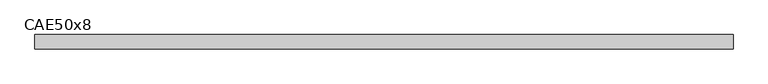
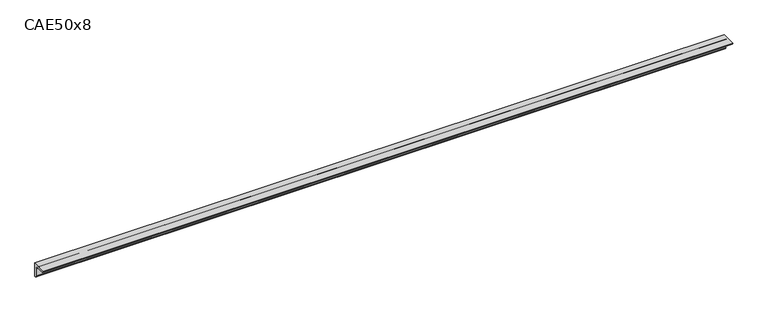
"""IFC4 building model written with IfcOpenShell, lengths in millimetres: beam geometry, L-Cornières : CAE50x8."""

from ifc_helpers import new_model, si_unit, point, frame, frame_2d, origin, place, context, project, spatial, polyline, circle_curve, trimmed, segment, composite_curve, outline, extrude, source, transform, mapped, element, save


def cae50x8_d97462a1(model_context):
    return source(origin(), model_context, "Body", "SweptSolid", [
        extrude(outline(composite_curve([segment(polyline([(15.2, 15.2), (15.2, -34.8)]), True, "CONTINUOUS"), segment(trimmed(circle_curve(frame_2d((15.2, -26.8)), 8.0), [point((15.2, -34.8))], [point((7.2, -26.8))], False, "CARTESIAN"), True, "CONTINUOUS"), segment(polyline([(7.2, -26.8), (7.2, -0.8)]), True, "CONTINUOUS"), segment(trimmed(circle_curve(frame_2d((-0.8, -0.8)), 8.0), [point((7.2, -0.8))], [point((-0.8, 7.2))], True, "CARTESIAN"), True, "CONTINUOUS"), segment(polyline([(-0.8, 7.2), (-26.8, 7.2)]), True, "CONTINUOUS"), segment(trimmed(circle_curve(frame_2d((-26.8, 15.2)), 8.0), [point((-26.8, 7.2))], [point((-34.8, 15.2))], False, "CARTESIAN"), True, "CONTINUOUS"), segment(polyline([(-34.8, 15.2), (15.2, 15.2)]), True, "CONTINUOUS")], self_intersect=False)), frame((-1162.0, 0.0, 0.0), z_axis=(1.0, 0.0, 0.0), x_axis=(0.0, 1.0, 0.0)), (0.0, 0.0, 1.0), 2395.0),
    ])


if __name__ == "__main__":
    model = new_model("IFC4")
    model_context = context("Model", 3, world=origin())
    ifc_project = project(units=[si_unit("LENGTHUNIT", "METRE", prefix="MILLI")], contexts=[model_context])
    site = spatial("IfcSite", under=ifc_project)
    building = spatial("IfcBuilding", under=site)
    placement = place(None, origin())
    cae50x8_shape = cae50x8_d97462a1(model_context)
    element("IfcBeam", 1, ObjectType="L-Cornières : CAE50x8", at=placement, inside=building, context=model_context, shape_type="MappedRepresentation", body=[
        mapped(cae50x8_shape, transform((0.0, 0.0, 0.0), x_axis=(1.0, 0.0, 0.0), y_axis=(0.0, 1.0, 0.0), z_axis=(0.0, 0.0, 1.0))),
    ])
    save(model, "model.ifc")
